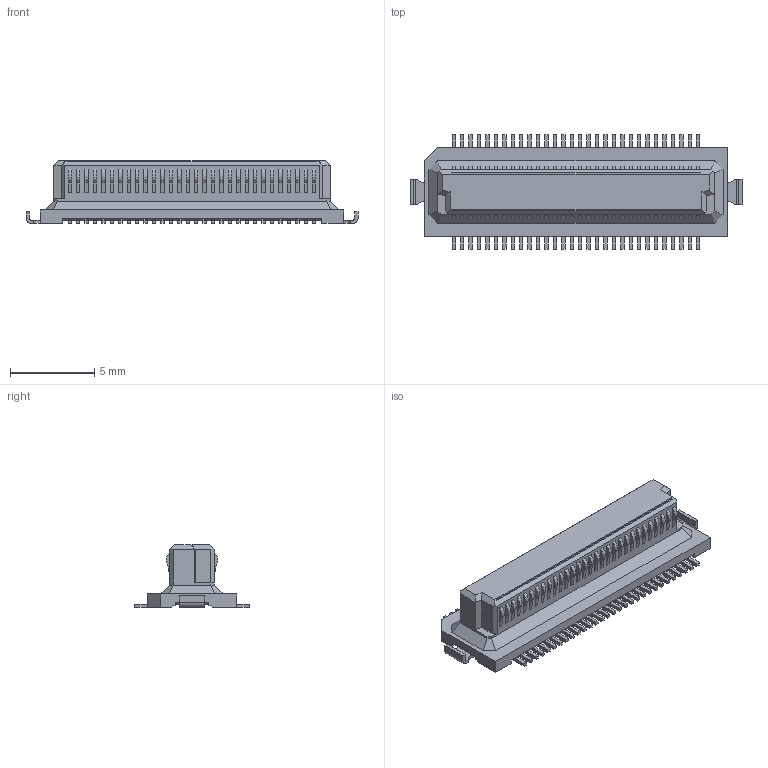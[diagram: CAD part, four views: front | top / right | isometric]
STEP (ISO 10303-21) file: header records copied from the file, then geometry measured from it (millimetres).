
FILE_DESCRIPTION(('Creo Elements/Direct Modeling STEP Export'),'2;1');
FILE_NAME('P3E150_DY10-060SB-1-T-H.stp','2022-03-01T 9:21:25',(''),(''),'Creo Elements/Direct Modeling STEP processor for AP214 (Solid Model)','Creo Elements/Direct Modeling 20.4A 18-Oct-2021 (C) Parametric Technology GmbH','');
FILE_SCHEMA(('AUTOMOTIVE_DESIGN { 1 0 10303 214 1 1 1 1 }'));
Length unit declared in the file: millimetre
Products named in the file (2): P3E150_DY10-060SB-1-T-H
Assembly tree (1 placements, depth 2):
  P3E150_DY10-060SB-1-T-H
    P3E150_DY10-060SB-1-T-H
Bounding box: 19.7 x 6.8 x 3.73 mm (x, y, z)
Volume: 187.7 mm3; surface area: 416.3 mm2
Topology: 1 solids, 1 shells, 964 faces, 2491 edges, 1650 vertices
Faces by surface type: plane 772, cylinder 192
Entity records: 29088 total; most frequent: CARTESIAN_POINT 5098, ORIENTED_EDGE 4982, DIRECTION 4794, EDGE_CURVE 2491, VECTOR 2102, LINE 2102, VERTEX_POINT 1650, AXIS2_PLACEMENT_3D 1346
